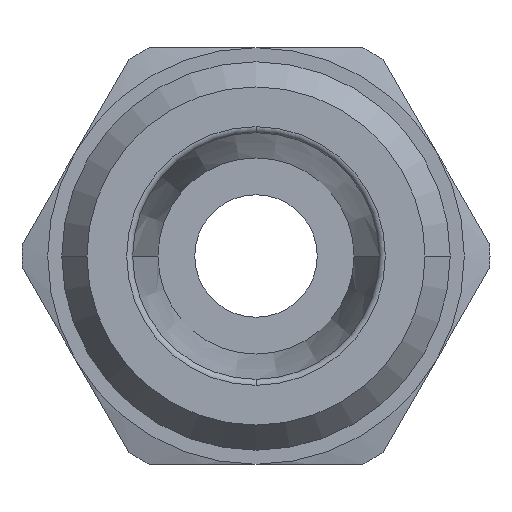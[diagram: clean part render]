
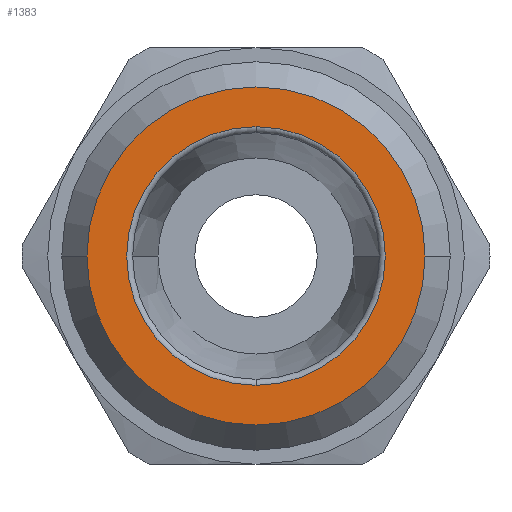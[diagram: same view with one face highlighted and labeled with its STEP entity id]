
A CAD part, left-side view. The second image highlights one B-rep face of the part: STEP entity #1383.
In plain terms, the highlighted planar face has unit normal (-1, 0, 0) as drawn and (0, 0, 1) by its records, which use the part's own axes.
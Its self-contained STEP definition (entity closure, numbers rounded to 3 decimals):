
#808=CARTESIAN_POINT('',(0.,-6.9,16.2));
#809=VERTEX_POINT('',#808);
#816=CARTESIAN_POINT('',(0.,6.9,16.2));
#817=VERTEX_POINT('',#816);
#818=CARTESIAN_POINT('',(0.,0.,16.2));
#819=DIRECTION('',(0.0,0.0,-1.0));
#820=DIRECTION('',(0.0,-1.0,0.0));
#821=AXIS2_PLACEMENT_3D('',#818,#819,#820);
#822=CIRCLE('',#821,6.9);
#823=EDGE_CURVE('',#809,#817,#822,.T.);
#881=CARTESIAN_POINT('',(5.277,0.,16.2));
#882=VERTEX_POINT('',#881);
#900=CARTESIAN_POINT('',(-5.277,0.,16.2));
#901=VERTEX_POINT('',#900);
#909=CARTESIAN_POINT('',(0.,-5.277,16.2));
#910=VERTEX_POINT('',#909);
#911=CARTESIAN_POINT('',(0.,0.,16.2));
#912=DIRECTION('',(0.0,0.0,1.0));
#913=DIRECTION('',(0.0,1.0,0.0));
#914=AXIS2_PLACEMENT_3D('',#911,#912,#913);
#915=CIRCLE('',#914,5.277);
#916=EDGE_CURVE('',#901,#910,#915,.T.);
#918=CARTESIAN_POINT('',(0.,0.,16.2));
#919=DIRECTION('',(0.0,0.0,1.0));
#920=DIRECTION('',(0.0,1.0,0.0));
#921=AXIS2_PLACEMENT_3D('',#918,#919,#920);
#922=CIRCLE('',#921,5.277);
#923=EDGE_CURVE('',#910,#882,#922,.T.);
#1344=CARTESIAN_POINT('',(0.,0.,16.2));
#1345=DIRECTION('',(0.0,0.0,1.0));
#1346=DIRECTION('',(0.0,1.0,0.0));
#1347=AXIS2_PLACEMENT_3D('',#1344,#1345,#1346);
#1348=CIRCLE('',#1347,5.277);
#1349=EDGE_CURVE('',#882,#901,#1348,.T.);
#1363=CARTESIAN_POINT('',(0.,-5.988,16.2));
#1364=DIRECTION('',(0.0,0.0,1.0));
#1365=DIRECTION('',(-1.0,0.0,0.0));
#1366=AXIS2_PLACEMENT_3D('',#1363,#1364,#1365);
#1367=PLANE('',#1366);
#1368=ORIENTED_EDGE('',*,*,#823,.F.);
#1369=CARTESIAN_POINT('',(0.,0.,16.2));
#1370=DIRECTION('',(0.0,0.0,-1.0));
#1371=DIRECTION('',(0.0,-1.0,0.0));
#1372=AXIS2_PLACEMENT_3D('',#1369,#1370,#1371);
#1373=CIRCLE('',#1372,6.9);
#1374=EDGE_CURVE('',#817,#809,#1373,.T.);
#1375=ORIENTED_EDGE('',*,*,#1374,.F.);
#1376=EDGE_LOOP('',(#1368,#1375));
#1377=FACE_OUTER_BOUND('',#1376,.T.);
#1378=ORIENTED_EDGE('',*,*,#923,.F.);
#1379=ORIENTED_EDGE('',*,*,#916,.F.);
#1380=ORIENTED_EDGE('',*,*,#1349,.F.);
#1381=EDGE_LOOP('',(#1378,#1379,#1380));
#1382=FACE_BOUND('',#1381,.T.);
#1383=ADVANCED_FACE('',(#1377,#1382),#1367,.T.);
